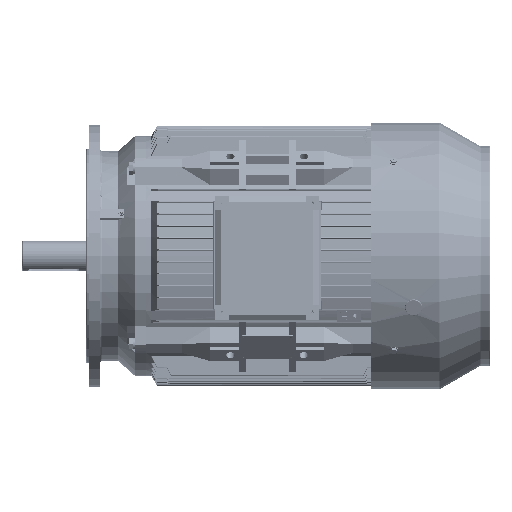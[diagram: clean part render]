
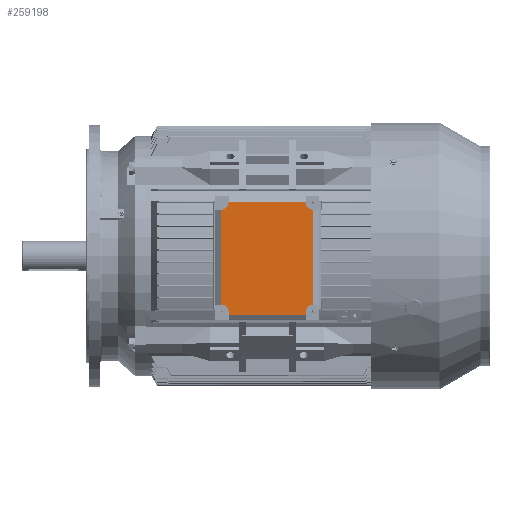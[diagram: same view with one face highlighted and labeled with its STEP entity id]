
A CAD part, top view. The second image highlights one B-rep face of the part: STEP entity #259198.
In plain terms, the highlighted planar face has unit normal (0, 0, 1).
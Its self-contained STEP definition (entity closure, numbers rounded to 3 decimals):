
#283 = ORIENTED_EDGE ( 'NONE', *, *, #143978, .F. ) ;
#6525 = CIRCLE ( 'NONE', #158662, 15. ) ;
#9539 = ORIENTED_EDGE ( 'NONE', *, *, #306722, .F. ) ;
#11598 = CARTESIAN_POINT ( 'NONE',  ( -39.908, 100.987, 386.917 ) ) ;
#13312 = CARTESIAN_POINT ( 'NONE',  ( 153.092, 100.987, 386.917 ) ) ;
#15351 = CARTESIAN_POINT ( 'NONE',  ( -40.908, -98.013, 386.917 ) ) ;
#15712 = CARTESIAN_POINT ( 'NONE',  ( 137.092, 115.987, 386.917 ) ) ;
#17468 = ORIENTED_EDGE ( 'NONE', *, *, #102476, .F. ) ;
#19461 = VECTOR ( 'NONE', #267165, 1000. ) ;
#21254 = VERTEX_POINT ( 'NONE', #150637 ) ;
#24691 = DIRECTION ( 'NONE',  ( 0., 1., 0. ) ) ;
#26138 = EDGE_CURVE ( 'NONE', #340958, #107697, #40146, .T. ) ;
#27267 = VERTEX_POINT ( 'NONE', #136177 ) ;
#29645 = VECTOR ( 'NONE', #134661, 1000. ) ;
#31390 = VERTEX_POINT ( 'NONE', #213943 ) ;
#31686 = CARTESIAN_POINT ( 'NONE',  ( -40.908, -98.013, 386.917 ) ) ;
#38815 = CIRCLE ( 'NONE', #121247, 15. ) ;
#39227 = VERTEX_POINT ( 'NONE', #13312 ) ;
#39388 = VERTEX_POINT ( 'NONE', #48034 ) ;
#40146 = LINE ( 'NONE', #313606, #244038 ) ;
#40346 = EDGE_CURVE ( 'NONE', #340958, #39227, #277517, .T. ) ;
#45095 = CARTESIAN_POINT ( 'NONE',  ( -24.908, -131.013, 386.917 ) ) ;
#48034 = CARTESIAN_POINT ( 'NONE',  ( -24.908, 116.987, 386.917 ) ) ;
#49053 = CIRCLE ( 'NONE', #266008, 15. ) ;
#52659 = ORIENTED_EDGE ( 'NONE', *, *, #308392, .F. ) ;
#55671 = CARTESIAN_POINT ( 'NONE',  ( -24.908, -113.013, 386.917 ) ) ;
#55784 = CARTESIAN_POINT ( 'NONE',  ( 137.092, -119.013, 386.917 ) ) ;
#58992 = DIRECTION ( 'NONE',  ( 0., 1., 0. ) ) ;
#65106 = DIRECTION ( 'NONE',  ( 0., 1., 0. ) ) ;
#70175 = EDGE_CURVE ( 'NONE', #21254, #39388, #314720, .T. ) ;
#70471 = ORIENTED_EDGE ( 'NONE', *, *, #119503, .F. ) ;
#73539 = LINE ( 'NONE', #125004, #266403 ) ;
#74830 = FACE_OUTER_BOUND ( 'NONE', #248585, .T. ) ;
#75002 = VECTOR ( 'NONE', #288923, 1000. ) ;
#79357 = DIRECTION ( 'NONE',  ( 0., 1., 0. ) ) ;
#84863 = VECTOR ( 'NONE', #79357, 1000. ) ;
#90264 = VECTOR ( 'NONE', #239779, 1000. ) ;
#91552 = DIRECTION ( 'NONE',  ( -1., 0., 0. ) ) ;
#92349 = AXIS2_PLACEMENT_3D ( 'NONE', #216100, #272978, #107744 ) ;
#98956 = VERTEX_POINT ( 'NONE', #306003 ) ;
#99883 = LINE ( 'NONE', #316566, #150274 ) ;
#102233 = LINE ( 'NONE', #359113, #322689 ) ;
#102476 = EDGE_CURVE ( 'NONE', #324580, #129082, #356826, .T. ) ;
#105512 = ORIENTED_EDGE ( 'NONE', *, *, #26138, .F. ) ;
#107697 = VERTEX_POINT ( 'NONE', #133663 ) ;
#107744 = DIRECTION ( 'NONE',  ( 0., -1., 0. ) ) ;
#112218 = CARTESIAN_POINT ( 'NONE',  ( 152.092, -113.013, 386.917 ) ) ;
#119503 = EDGE_CURVE ( 'NONE', #27267, #343898, #122392, .T. ) ;
#121247 = AXIS2_PLACEMENT_3D ( 'NONE', #126155, #291431, #267495 ) ;
#122392 = LINE ( 'NONE', #291261, #90264 ) ;
#124626 = VERTEX_POINT ( 'NONE', #15712 ) ;
#125004 = CARTESIAN_POINT ( 'NONE',  ( -24.908, 116.987, 386.917 ) ) ;
#125381 = EDGE_CURVE ( 'NONE', #159208, #39388, #73539, .T. ) ;
#126155 = CARTESIAN_POINT ( 'NONE',  ( 152.092, 115.987, 386.917 ) ) ;
#129082 = VERTEX_POINT ( 'NONE', #31686 ) ;
#133662 = VERTEX_POINT ( 'NONE', #135341 ) ;
#133663 = CARTESIAN_POINT ( 'NONE',  ( 152.092, -98.013, 386.917 ) ) ;
#134661 = DIRECTION ( 'NONE',  ( -1., 0., 0. ) ) ;
#135341 = CARTESIAN_POINT ( 'NONE',  ( -40.908, 100.987, 386.917 ) ) ;
#136177 = CARTESIAN_POINT ( 'NONE',  ( 137.092, -113.013, 386.917 ) ) ;
#143978 = EDGE_CURVE ( 'NONE', #326862, #324580, #220982, .T. ) ;
#150274 = VECTOR ( 'NONE', #289041, 1000. ) ;
#150637 = CARTESIAN_POINT ( 'NONE',  ( -24.908, 115.987, 386.917 ) ) ;
#151638 = EDGE_CURVE ( 'NONE', #31390, #326862, #296465, .T. ) ;
#158662 = AXIS2_PLACEMENT_3D ( 'NONE', #112218, #251729, #58992 ) ;
#158703 = CARTESIAN_POINT ( 'NONE',  ( 137.092, 128.987, 386.917 ) ) ;
#159208 = VERTEX_POINT ( 'NONE', #302995 ) ;
#162660 = DIRECTION ( 'NONE',  ( 1., 0., 0. ) ) ;
#168882 = VECTOR ( 'NONE', #328607, 1000. ) ;
#172329 = CARTESIAN_POINT ( 'NONE',  ( -39.908, -98.013, 386.917 ) ) ;
#176930 = LINE ( 'NONE', #15351, #75002 ) ;
#179859 = AXIS2_PLACEMENT_3D ( 'NONE', #248559, #188049, #24691 ) ;
#182772 = ORIENTED_EDGE ( 'NONE', *, *, #339596, .T. ) ;
#185557 = EDGE_CURVE ( 'NONE', #107697, #27267, #6525, .T. ) ;
#188049 = DIRECTION ( 'NONE',  ( 0., 0., 1. ) ) ;
#190523 = CARTESIAN_POINT ( 'NONE',  ( 153.092, -98.013, 386.917 ) ) ;
#206431 = CARTESIAN_POINT ( 'NONE',  ( -24.908, 128.987, 386.917 ) ) ;
#207658 = VERTEX_POINT ( 'NONE', #11598 ) ;
#208710 = EDGE_CURVE ( 'NONE', #207658, #21254, #49053, .T. ) ;
#213753 = CARTESIAN_POINT ( 'NONE',  ( -52.908, -98.013, 386.917 ) ) ;
#213943 = CARTESIAN_POINT ( 'NONE',  ( -24.908, -119.013, 386.917 ) ) ;
#216100 = CARTESIAN_POINT ( 'NONE',  ( -52.908, 128.987, 386.917 ) ) ;
#216886 = EDGE_CURVE ( 'NONE', #133662, #129082, #176930, .T. ) ;
#220982 = CIRCLE ( 'NONE', #179859, 15. ) ;
#239779 = DIRECTION ( 'NONE',  ( 0., -1., 0. ) ) ;
#241864 = PLANE ( 'NONE',  #92349 ) ;
#244038 = VECTOR ( 'NONE', #91552, 1000. ) ;
#248559 = CARTESIAN_POINT ( 'NONE',  ( -39.908, -113.013, 386.917 ) ) ;
#248585 = EDGE_LOOP ( 'NONE', ( #105512, #298749, #323349, #314566, #52659, #352233, #279921, #272620, #9539, #360464, #17468, #283, #325990, #182772, #70471, #260997 ) ) ;
#251414 = LINE ( 'NONE', #308271, #168882 ) ;
#251729 = DIRECTION ( 'NONE',  ( 0., 0., 1. ) ) ;
#253448 = VECTOR ( 'NONE', #356915, 1000. ) ;
#259198 = ADVANCED_FACE ( 'NONE', ( #74830 ), #241864, .T. ) ;
#260997 = ORIENTED_EDGE ( 'NONE', *, *, #185557, .F. ) ;
#266008 = AXIS2_PLACEMENT_3D ( 'NONE', #334803, #340224, #300470 ) ;
#266403 = VECTOR ( 'NONE', #290221, 1000. ) ;
#267165 = DIRECTION ( 'NONE',  ( 0., 1., 0. ) ) ;
#267495 = DIRECTION ( 'NONE',  ( 0., 1., 0. ) ) ;
#272620 = ORIENTED_EDGE ( 'NONE', *, *, #208710, .F. ) ;
#272978 = DIRECTION ( 'NONE',  ( 0., 0., 1. ) ) ;
#277517 = LINE ( 'NONE', #297815, #84863 ) ;
#279921 = ORIENTED_EDGE ( 'NONE', *, *, #70175, .F. ) ;
#285570 = EDGE_CURVE ( 'NONE', #98956, #39227, #99883, .T. ) ;
#288923 = DIRECTION ( 'NONE',  ( 0., -1., 0. ) ) ;
#289041 = DIRECTION ( 'NONE',  ( 1., 0., 0. ) ) ;
#290221 = DIRECTION ( 'NONE',  ( -1., 0., 0. ) ) ;
#291261 = CARTESIAN_POINT ( 'NONE',  ( 137.092, -131.013, 386.917 ) ) ;
#291431 = DIRECTION ( 'NONE',  ( 0., 0., 1. ) ) ;
#296465 = LINE ( 'NONE', #45095, #19461 ) ;
#297815 = CARTESIAN_POINT ( 'NONE',  ( 153.092, 100.987, 386.917 ) ) ;
#298200 = LINE ( 'NONE', #158703, #253448 ) ;
#298749 = ORIENTED_EDGE ( 'NONE', *, *, #40346, .T. ) ;
#300470 = DIRECTION ( 'NONE',  ( 0., 1., 0. ) ) ;
#302995 = CARTESIAN_POINT ( 'NONE',  ( 137.092, 116.987, 386.917 ) ) ;
#306003 = CARTESIAN_POINT ( 'NONE',  ( 152.092, 100.987, 386.917 ) ) ;
#306722 = EDGE_CURVE ( 'NONE', #133662, #207658, #102233, .T. ) ;
#308271 = CARTESIAN_POINT ( 'NONE',  ( 137.092, -119.013, 386.917 ) ) ;
#308392 = EDGE_CURVE ( 'NONE', #159208, #124626, #298200, .T. ) ;
#313606 = CARTESIAN_POINT ( 'NONE',  ( 165.092, -98.013, 386.917 ) ) ;
#314566 = ORIENTED_EDGE ( 'NONE', *, *, #322213, .F. ) ;
#314720 = LINE ( 'NONE', #206431, #317794 ) ;
#316566 = CARTESIAN_POINT ( 'NONE',  ( 165.092, 100.987, 386.917 ) ) ;
#317794 = VECTOR ( 'NONE', #65106, 1000. ) ;
#322213 = EDGE_CURVE ( 'NONE', #124626, #98956, #38815, .T. ) ;
#322689 = VECTOR ( 'NONE', #162660, 1000. ) ;
#323349 = ORIENTED_EDGE ( 'NONE', *, *, #285570, .F. ) ;
#324580 = VERTEX_POINT ( 'NONE', #172329 ) ;
#325990 = ORIENTED_EDGE ( 'NONE', *, *, #151638, .F. ) ;
#326862 = VERTEX_POINT ( 'NONE', #55671 ) ;
#328607 = DIRECTION ( 'NONE',  ( 1., 0., 0. ) ) ;
#334803 = CARTESIAN_POINT ( 'NONE',  ( -39.908, 115.987, 386.917 ) ) ;
#339596 = EDGE_CURVE ( 'NONE', #31390, #343898, #251414, .T. ) ;
#340224 = DIRECTION ( 'NONE',  ( 0., 0., 1. ) ) ;
#340958 = VERTEX_POINT ( 'NONE', #190523 ) ;
#343898 = VERTEX_POINT ( 'NONE', #55784 ) ;
#352233 = ORIENTED_EDGE ( 'NONE', *, *, #125381, .T. ) ;
#356826 = LINE ( 'NONE', #213753, #29645 ) ;
#356915 = DIRECTION ( 'NONE',  ( 0., -1., 0. ) ) ;
#359113 = CARTESIAN_POINT ( 'NONE',  ( -52.908, 100.987, 386.917 ) ) ;
#360464 = ORIENTED_EDGE ( 'NONE', *, *, #216886, .T. ) ;
